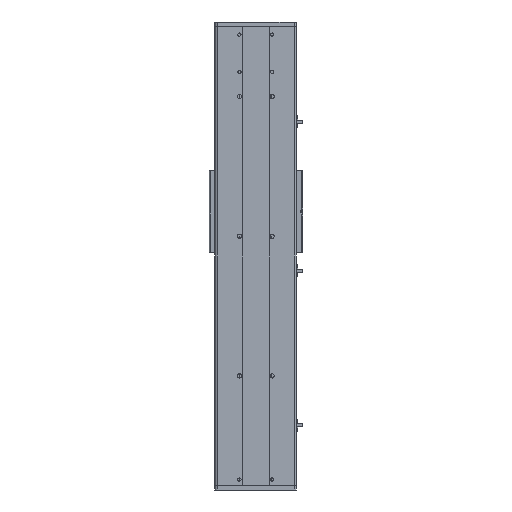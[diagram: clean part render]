
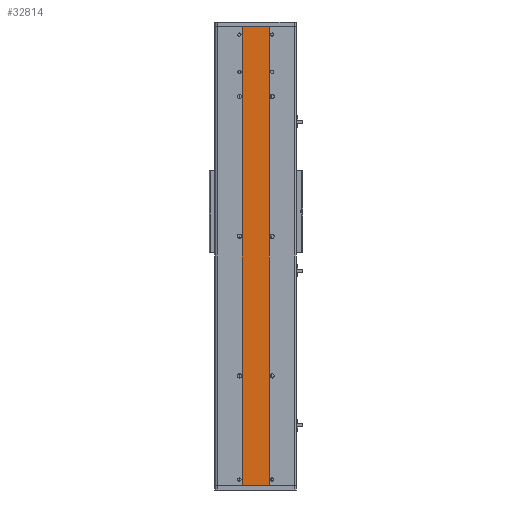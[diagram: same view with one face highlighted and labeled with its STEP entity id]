
A CAD part, front view. The second image highlights one B-rep face of the part: STEP entity #32814.
In plain terms, the highlighted planar face has unit normal (0, -1, 0).
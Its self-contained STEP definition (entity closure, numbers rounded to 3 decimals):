
#332 = CARTESIAN_POINT ( 'NONE',  ( 58.27, -85.314, -895. ) ) ;
#2766 = AXIS2_PLACEMENT_3D ( 'NONE', #12047, #14508, #14610 ) ;
#2780 = LINE ( 'NONE', #28174, #15623 ) ;
#3167 = EDGE_LOOP ( 'NONE', ( #6569, #22029, #25693, #11562 ) ) ;
#3728 = LINE ( 'NONE', #332, #8953 ) ;
#4311 = VERTEX_POINT ( 'NONE', #22287 ) ;
#5532 = VERTEX_POINT ( 'NONE', #6992 ) ;
#6569 = ORIENTED_EDGE ( 'NONE', *, *, #7227, .T. ) ;
#6992 = CARTESIAN_POINT ( 'NONE',  ( 1.27, -85.314, 985. ) ) ;
#7227 = EDGE_CURVE ( 'NONE', #23600, #4311, #3728, .T. ) ;
#8953 = VECTOR ( 'NONE', #20814, 1000. ) ;
#10188 = DIRECTION ( 'NONE',  ( -1., 0., 0. ) ) ;
#11562 = ORIENTED_EDGE ( 'NONE', *, *, #31803, .F. ) ;
#12047 = CARTESIAN_POINT ( 'NONE',  ( 1.27, -85.314, -895. ) ) ;
#12557 = CARTESIAN_POINT ( 'NONE',  ( 1.27, -85.314, -895. ) ) ;
#12942 = DIRECTION ( 'NONE',  ( -1., 0., 0. ) ) ;
#14508 = DIRECTION ( 'NONE',  ( 0., 1., 0. ) ) ;
#14610 = DIRECTION ( 'NONE',  ( 0., 0., 1. ) ) ;
#15623 = VECTOR ( 'NONE', #10188, 1000. ) ;
#16449 = LINE ( 'NONE', #12557, #26933 ) ;
#17397 = EDGE_CURVE ( 'NONE', #24462, #5532, #16449, .T. ) ;
#18002 = CARTESIAN_POINT ( 'NONE',  ( 1.27, -85.314, 985. ) ) ;
#20814 = DIRECTION ( 'NONE',  ( 0., 0., 1. ) ) ;
#21182 = CARTESIAN_POINT ( 'NONE',  ( 58.27, -85.314, 0. ) ) ;
#22029 = ORIENTED_EDGE ( 'NONE', *, *, #23457, .T. ) ;
#22287 = CARTESIAN_POINT ( 'NONE',  ( 58.27, -85.314, 985. ) ) ;
#22443 = VECTOR ( 'NONE', #12942, 1000. ) ;
#22799 = DIRECTION ( 'NONE',  ( 0., 0., 1. ) ) ;
#23457 = EDGE_CURVE ( 'NONE', #4311, #5532, #29259, .T. ) ;
#23600 = VERTEX_POINT ( 'NONE', #21182 ) ;
#24462 = VERTEX_POINT ( 'NONE', #27396 ) ;
#25693 = ORIENTED_EDGE ( 'NONE', *, *, #17397, .F. ) ;
#26933 = VECTOR ( 'NONE', #22799, 1000. ) ;
#27396 = CARTESIAN_POINT ( 'NONE',  ( 1.27, -85.314, 0. ) ) ;
#27441 = PLANE ( 'NONE',  #2766 ) ;
#28174 = CARTESIAN_POINT ( 'NONE',  ( 0., -85.314, 0. ) ) ;
#29259 = LINE ( 'NONE', #18002, #22443 ) ;
#31803 = EDGE_CURVE ( 'NONE', #23600, #24462, #2780, .T. ) ;
#32814 = ADVANCED_FACE ( 'NONE', ( #33227 ), #27441, .F. ) ;
#33227 = FACE_OUTER_BOUND ( 'NONE', #3167, .T. ) ;
